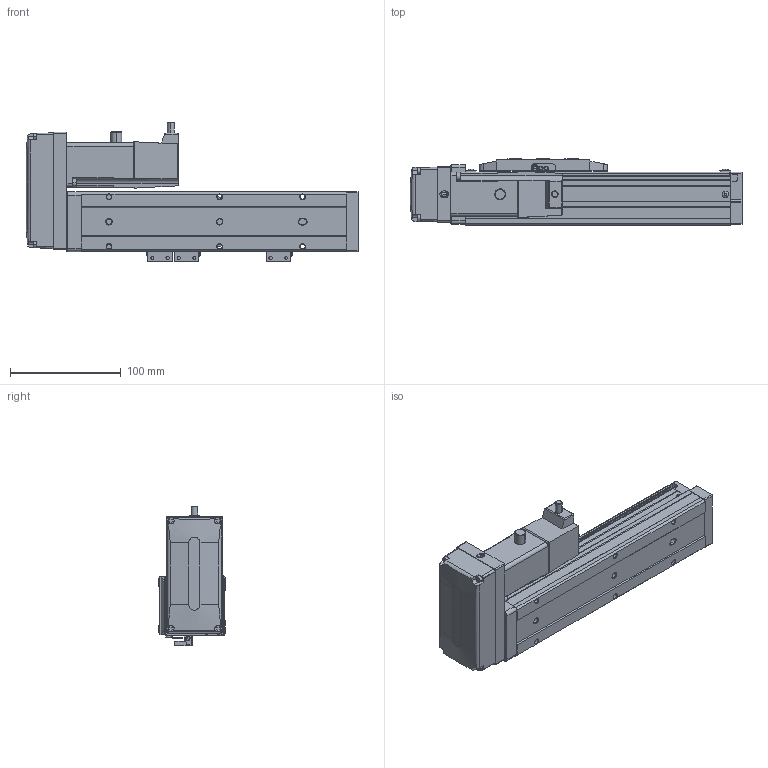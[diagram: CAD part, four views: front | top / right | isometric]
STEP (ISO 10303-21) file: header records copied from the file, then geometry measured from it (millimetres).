
FILE_DESCRIPTION (( 'STEP AP203' ), '1' );
FILE_NAME ('CTH5-L10-S100-BL-C10(¼ò).STEP', '2023-02-04T02:17:24', ( '' ), ( '' ), 'SwSTEP 2.0', 'SolidWorks 2018', '' );
FILE_SCHEMA (( 'CONFIG_CONTROL_DESIGN' ));
Length unit declared in the file: millimetre
Products named in the file (21): CTH5-L10-S100-BL-C10(潠); CTH5覜茼え; CTH5耜蚾欶; CTH5菁釱-L240; 葩璃 蚾饜极13^CTH8-L10-S50-BM-C40(潠)1; CTH5-BL-T10_body5; M3｡｣; 嫖萇羲壽郪磁1; T10-p1; CTH5耜晚蹟隊; CTH5賑怢-2; CTH5ヶ耜啣(潠); PM-Y45; hex nuts, style 1-grades ab gb_GB_FASTENER_NUT_SNAB1 M3-N; CTH5綴耜啣; 内六角圆柱头螺钉M3-2; CTH5耜晚蹟隊-1; 100W萇儂; CTH嫖萇羲壽假蚾啣; CTH5耜蚾蟀諉啣(潠); CTH100W假蚾啣
Assembly tree (35 placements, depth 3):
  CTH5-L10-S100-BL-C10(潠)
    CTH5綴耜啣
    CTH5賑怢-2
    CTH5ヶ耜啣(潠)
    CTH5菁釱-L240
    CTH5耜晚蹟隊  x2
    CTH5覜茼え
    CTH5耜晚蹟隊-1  x3
    CTH5耜蚾蟀諉啣(潠)
    CTH5耜蚾欶
      CTH5-BL-T10_body5
    100W萇儂
      T10-p1
    CTH100W假蚾啣
    葩璃 蚾饜极13^CTH8-L10-S50-BM-C40(潠)1  x2
      CTH嫖萇羲壽假蚾啣
      PM-Y45
      内六角圆柱头螺钉M3-2
      M3｡｣
      hex nuts, style 1-grades ab gb_GB_FASTENER_NUT_SNAB1 M3-N
    嫖萇羲壽郪磁1
      CTH嫖萇羲壽假蚾啣
      PM-Y45
      M3｡｣  x2
      内六角圆柱头螺钉M3-2  x2
      hex nuts, style 1-grades ab gb_GB_FASTENER_NUT_SNAB1 M3-N  x2
Bounding box: 300 x 60 x 126.31 mm (x, y, z)
Volume: 938529.3 mm3; surface area: 163199.7 mm2
Topology: 38 solids, 38 shells, 1548 faces, 3873 edges, 2508 vertices
Faces by surface type: plane 881, cylinder 452, cone 159, torus 38, bspline 18
Entity records: 35718 total; most frequent: CARTESIAN_POINT 6633, DIRECTION 5615, ORIENTED_EDGE 5418, EDGE_CURVE 2709, AXIS2_PLACEMENT_3D 1913, VECTOR 1789, LINE 1789, VERTEX_POINT 1752
